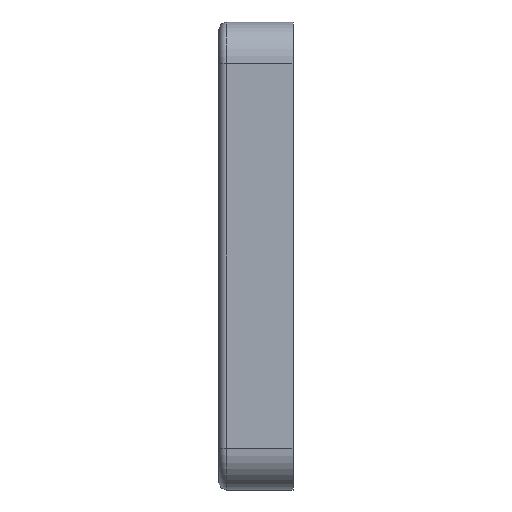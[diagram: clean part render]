
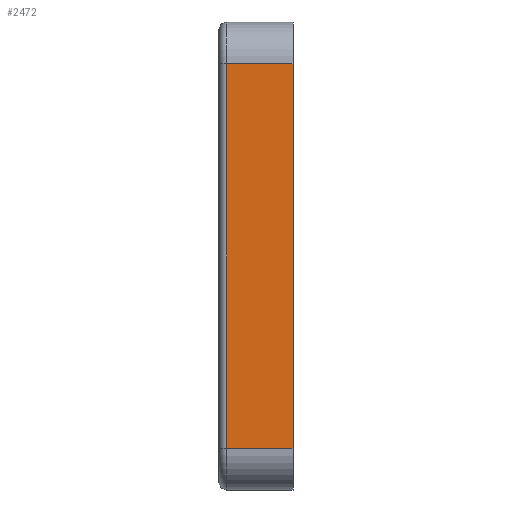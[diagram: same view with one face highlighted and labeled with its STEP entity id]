
A CAD part, left-side view. The second image highlights one B-rep face of the part: STEP entity #2472.
In plain terms, the highlighted planar face has unit normal (-1, 0, 0).
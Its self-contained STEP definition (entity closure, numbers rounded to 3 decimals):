
#36 = CARTESIAN_POINT ( 'NONE',  ( -72., 12.7, -36.9 ) ) ;
#46 = CARTESIAN_POINT ( 'NONE',  ( -72., 12.7, 36.9 ) ) ;
#47 = VERTEX_POINT ( 'NONE', #46 ) ;
#122 = VERTEX_POINT ( 'NONE', #123 ) ;
#123 = CARTESIAN_POINT ( 'NONE',  ( -72., 0., -36.9 ) ) ;
#164 = DIRECTION ( 'NONE',  ( 0., 0., -1. ) ) ;
#183 = DIRECTION ( 'NONE',  ( 1., 0., 0. ) ) ;
#365 = CARTESIAN_POINT ( 'NONE',  ( -72., 12.7, -36.9 ) ) ;
#405 = LINE ( 'NONE', #1223, #2455 ) ;
#544 = LINE ( 'NONE', #365, #2533 ) ;
#622 = DIRECTION ( 'NONE',  ( 0., 0., 1. ) ) ;
#988 = CARTESIAN_POINT ( 'NONE',  ( -72., 14.2, -44.9 ) ) ;
#1013 = ORIENTED_EDGE ( 'NONE', *, *, #1992, .T. ) ;
#1042 = LINE ( 'NONE', #1877, #1997 ) ;
#1088 = FACE_OUTER_BOUND ( 'NONE', #2531, .T. ) ;
#1181 = EDGE_CURVE ( 'NONE', #1611, #122, #1042, .T. ) ;
#1187 = DIRECTION ( 'NONE',  ( 0., 1., 0. ) ) ;
#1214 = ORIENTED_EDGE ( 'NONE', *, *, #1181, .T. ) ;
#1223 = CARTESIAN_POINT ( 'NONE',  ( -72., 0., -44.9 ) ) ;
#1281 = ORIENTED_EDGE ( 'NONE', *, *, #1559, .T. ) ;
#1541 = ORIENTED_EDGE ( 'NONE', *, *, #1548, .T. ) ;
#1548 = EDGE_CURVE ( 'NONE', #47, #1611, #544, .T. ) ;
#1557 = VERTEX_POINT ( 'NONE', #2174 ) ;
#1559 = EDGE_CURVE ( 'NONE', #122, #1557, #405, .T. ) ;
#1573 = DIRECTION ( 'NONE',  ( 0., 0., -1. ) ) ;
#1611 = VERTEX_POINT ( 'NONE', #36 ) ;
#1701 = DIRECTION ( 'NONE',  ( 0., -1., 0. ) ) ;
#1752 = PLANE ( 'NONE',  #2397 ) ;
#1877 = CARTESIAN_POINT ( 'NONE',  ( -72., 14.2, -36.9 ) ) ;
#1992 = EDGE_CURVE ( 'NONE', #1557, #47, #2475, .T. ) ;
#1997 = VECTOR ( 'NONE', #1701, 1000. ) ;
#2174 = CARTESIAN_POINT ( 'NONE',  ( -72., 0., 36.9 ) ) ;
#2397 = AXIS2_PLACEMENT_3D ( 'NONE', #988, #183, #1573 ) ;
#2404 = VECTOR ( 'NONE', #1187, 1000. ) ;
#2455 = VECTOR ( 'NONE', #622, 1000. ) ;
#2472 = ADVANCED_FACE ( 'NONE', ( #1088 ), #1752, .F. ) ;
#2475 = LINE ( 'NONE', #2564, #2404 ) ;
#2531 = EDGE_LOOP ( 'NONE', ( #1013, #1541, #1214, #1281 ) ) ;
#2533 = VECTOR ( 'NONE', #164, 1000. ) ;
#2564 = CARTESIAN_POINT ( 'NONE',  ( -72., 14.2, 36.9 ) ) ;
